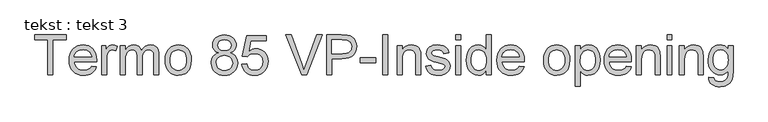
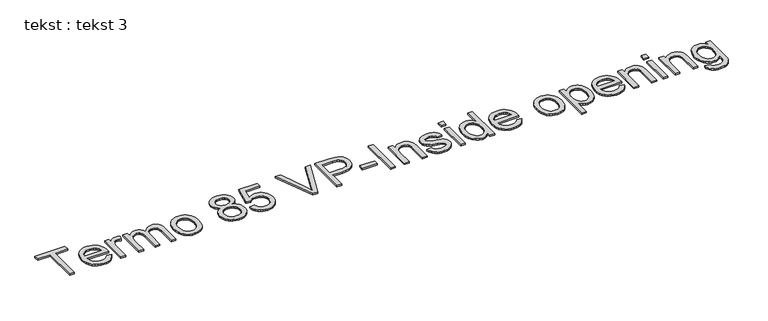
"""IFC4 building model written with IfcOpenShell, lengths in millimetres: proxy geometry, tekst : tekst 3."""

from ifc_helpers import new_model, si_unit, origin, origin_with_axes, place, context, project, spatial, polyline, outline, extrude, source, transform, mapped, element, save


def tekst_tekst_3_45cd4cb1(model_context):
    return source(origin(), model_context, "Body", "SweptSolid", [
        extrude(outline(polyline([(-1216.6523051, 3.0111201), (-1216.6523051, 442.507477), (-1381.4634389, 442.507477), (-1381.4634389, 505.2926709), (-989.0559774, 505.2926709), (-989.0559774, 442.507477), (-1153.8671112, 442.507477), (-1153.8671112, 3.0111201), (-1216.6523051, 3.0111201)])), origin_with_axes(), (0.0, 0.0, 1.0), 20.0),
        extrude(outline(polyline([(-668.0176229, 112.8852093), (-606.4587024, 105.0370601), (-615.8971749, 80.3813022), (-628.638921, 58.6532719), (-644.683941, 39.8529691), (-664.0322347, 23.9803938), (-686.4845327, 11.3727713), (-711.8415656, 2.3673266), (-740.1033335, -3.0359402), (-771.2698363, -4.8370291), (-810.2270067, -1.7291927), (-844.9382058, 7.5943166), (-875.4034335, 23.1334988), (-901.6226899, 44.8883539), (-922.7069267, 72.2534094), (-937.7670959, 104.6231929), (-946.8031974, 141.9977043), (-949.8152312, 184.3769437), (-946.7725406, 228.1932222), (-937.6444686, 266.8131675), (-922.4310152, 300.2367796), (-901.1321805, 328.4640585), (-874.9819021, 350.8895318), (-845.2141173, 366.907727), (-811.8288262, 376.5186441), (-774.8260289, 379.7222832), (-739.0150159, 376.5263084), (-706.629904, 366.9383839), (-677.6706932, 350.9585097), (-652.1373835, 328.5866859), (-631.2945692, 300.4207206), (-616.4068447, 267.0584222), (-607.47421, 228.4997905), (-604.4966651, 184.7448257), (-604.8645471, 167.822254), (-887.0300374, 167.822254), (-883.3933706, 142.7679572), (-876.1621901, 120.8253291), (-865.336496, 101.9943695), (-850.9162882, 86.2750784), (-833.6986444, 73.8820537), (-814.4806423, 65.0298931), (-793.2622818, 59.7185968), (-770.0435629, 57.9481647), (-736.627615, 61.2284459), (-708.4846424, 71.0692892), (-685.614645, 88.0838315), (-668.0176229, 112.8852093)]), holes=[polyline([(-887.0300374, 230.6074478), (-667.2818589, 230.6074478), (-675.7738017, 263.778141), (-692.420462, 287.5065297), (-709.5423031, 300.3823996), (-729.0247205, 309.5794494), (-750.8677139, 315.0976794), (-775.0712835, 316.9370893), (-817.3930414, 311.0663058), (-835.8063017, 303.7278265), (-852.3878162, 293.4539553), (-866.3021862, 280.7198733), (-876.7140131, 266.0007614), (-883.6232968, 249.2966196), (-887.0300374, 230.6074478)])]), origin_with_axes(), (0.0, 0.0, 1.0), 20.0),
        extrude(outline(polyline([(-541.7114713, 3.0111201), (-541.7114713, 371.874134), (-486.7744266, 371.874134), (-486.7744266, 317.3049713), (-466.4796032, 348.9428229), (-447.7789352, 367.5821773), (-429.0169534, 376.6872567), (-408.538189, 379.7222832), (-377.2682194, 374.8785036), (-345.5077405, 360.3471648), (-366.4770142, 304.0612195), (-388.5499339, 313.7181219), (-410.6228536, 316.9370893), (-429.369507, 313.8407492), (-446.1234662, 304.5517288), (-459.6584579, 289.7751354), (-468.7482089, 270.216076), (-476.3817603, 235.1446591), (-478.9262774, 196.8849316), (-478.9262774, 3.0111201), (-541.7114713, 3.0111201)])), origin_with_axes(), (0.0, 0.0, 1.0), 20.0),
        extrude(outline(polyline([(-306.2669943, 3.0111201), (-306.2669943, 371.874134), (-243.4818005, 371.874134), (-243.4818005, 311.1736048), (-224.5971914, 339.0559943), (-200.3169797, 360.8989878), (-171.4688999, 375.0164593), (-138.8806865, 379.7222832), (-103.9625538, 374.9244888), (-75.9728654, 360.5311058), (-55.0649053, 337.4924958), (-41.3919578, 306.7590208), (-18.506632, 338.6804481), (7.5976612, 361.4814676), (36.9209219, 375.1620793), (69.4631501, 379.7222832), (94.597921, 377.8253916), (116.6593444, 372.134717), (135.6474203, 362.6502593), (151.5621486, 349.3720186), (164.1429465, 332.1467106), (173.1292306, 310.8210512), (178.5210011, 285.3950404), (180.3182579, 255.8686781), (180.3182579, 3.0111201), (117.5330641, 3.0111201), (117.5330641, 228.8906652), (116.0768645, 260.20662), (111.7082658, 281.3138495), (103.5228914, 295.7685462), (90.6163648, 307.1269028), (74.0156897, 314.4845427), (54.7478703, 316.9370893), (36.9554108, 315.3659267), (20.7341141, 310.6524386), (6.0839801, 302.7966252), (-6.9949913, 291.7984863), (-17.7517075, 277.3361254), (-25.4350763, 259.0876456), (-30.0450975, 237.0530469), (-31.5817713, 211.2323294), (-31.5817713, 3.0111201), (-94.3669651, 3.0111201), (-94.3669651, 235.8804231), (-97.9997998, 271.3810356), (-108.8983039, 296.7035796), (-117.3251009, 305.5557401), (-128.0741529, 311.8787119), (-156.5390223, 316.9370893), (-180.7272635, 313.5648377), (-203.014781, 303.4480829), (-221.4088808, 286.8320794), (-233.9168686, 263.962082), (-241.0905675, 232.23226), (-243.4818005, 189.0367824), (-243.4818005, 3.0111201), (-306.2669943, 3.0111201)])), origin_with_axes(), (0.0, 0.0, 1.0), 20.0),
        extrude(outline(polyline([(258.7997502, 187.442627), (262.1949945, 235.213637), (272.3807272, 276.3780994), (289.3569485, 310.9360143), (313.1236582, 338.8873817), (337.0513163, 356.7526511), (363.4621779, 369.5135578), (392.3562429, 377.1701018), (423.7335114, 379.7222832), (458.3719005, 376.6144467), (489.6916875, 367.2909374), (517.6928722, 351.7517552), (542.3754549, 329.9969002), (562.5208262, 302.7621362), (576.9103772, 270.7832274), (585.5441077, 234.0601736), (588.4220179, 192.592975), (583.3329837, 129.1639876), (576.9716908, 103.1286723), (568.0658809, 80.8794758), (556.7266848, 61.6614736), (543.0652336, 44.7197413), (527.0815273, 30.0542789), (508.775566, 17.6650863), (468.0479634, 0.7884997), (423.7335114, -4.8370291), (388.5892846, -1.740689), (356.9782577, 7.5483314), (328.9004308, 23.030032), (304.355804, 44.7044129), (284.4250305, 72.203592), (270.1887637, 105.1596875), (261.6470036, 143.5726991), (258.7997502, 187.442627)]), holes=[polyline([(321.5849441, 187.5652544), (323.4013614, 157.111523), (328.8506135, 130.7428145), (337.9327002, 108.4591291), (350.6476217, 90.2604666), (366.1139939, 76.1238346), (383.4504329, 66.0262402), (402.6569388, 59.9676836), (423.7335114, 57.9481647), (444.7027851, 59.9791799), (463.8326489, 66.0722255), (481.1231027, 76.2273014), (496.5741465, 90.4444076), (509.2890679, 108.823179), (518.3711547, 131.4632501), (523.8204067, 158.364621), (525.6368241, 189.5272917), (523.8089104, 219.0153329), (518.3251694, 244.6942625), (509.1856011, 266.5640807), (496.3902055, 284.6247874), (480.8816801, 298.7614195), (463.6027226, 308.8590139), (444.5533331, 314.9175705), (423.7335114, 316.9370893), (402.6569388, 314.9252347), (383.4504329, 308.8896707), (366.1139939, 298.8303974), (350.6476217, 284.7474148), (337.9327002, 266.6024018), (328.8506135, 244.3570374), (323.4013614, 218.0113216), (321.5849441, 187.5652544)])]), origin_with_axes(), (0.0, 0.0, 1.0), 20.0),
        extrude(outline(polyline([(931.0427828, 279.6583805), (897.4275655, 296.2130703), (873.8371325, 318.653872), (859.9036019, 346.5209331), (855.2590918, 379.3544012), (857.7882805, 404.9605209), (865.3758466, 428.4359907), (878.0217902, 449.7808106), (895.7261112, 468.9949807), (917.6380826, 484.8752201), (942.9069771, 496.2182483), (971.5327949, 503.0240652), (1003.5155358, 505.2926709), (1035.6515609, 502.9704158), (1064.4919765, 496.0036505), (1090.0367826, 484.392375), (1112.2859791, 468.1365894), (1130.3121968, 448.5468731), (1143.1880666, 426.9338059), (1150.9135885, 403.2973877), (1153.4887625, 377.6376185), (1148.905566, 345.8618112), (1135.1559764, 318.469931), (1112.0867096, 296.167085), (1079.5444815, 279.6583805), (1100.1803621, 270.87903), (1118.1874194, 259.7467675), (1133.5656532, 246.2615931), (1146.3150636, 230.4235068), (1156.3206875, 212.5850621), (1163.4675616, 193.0988127), (1169.185061, 149.1828995), (1166.3493039, 117.8669447), (1157.8420328, 89.1568207), (1143.6632476, 63.0525274), (1123.8129482, 39.554065), (1099.3334671, 20.1329613), (1071.2671366, 6.2607444), (1039.6139566, -2.0625857), (1004.3739271, -4.8370291), (969.1338977, -2.0510894), (937.4807177, 6.3067297), (909.4143871, 20.2364281), (884.934906, 39.738006), (865.0846067, 63.4012489), (850.9058215, 89.8159426), (842.3985503, 118.982087), (839.5627933, 150.8996822), (841.0496497, 174.7200414), (845.5102189, 196.5170496), (852.9445009, 216.2907068), (863.3524957, 234.0410131), (876.504277, 249.4460716), (892.1699186, 262.1839857), (910.3494205, 272.2547553), (931.0427828, 279.6583805)]), holes=[polyline([(918.0442856, 377.5149912), (923.6085008, 350.1077826), (940.3011463, 328.2188039), (952.6980031, 319.8494885), (967.6317129, 313.871406), (1005.1096911, 309.0889401), (1041.7139496, 313.8407492), (1056.3832442, 319.7805106), (1068.630649, 328.0961765), (1085.1853387, 349.2493913), (1090.7035687, 374.6945626), (1085.0013977, 401.1054242), (1067.894885, 422.9484176), (1055.3715687, 431.5055061), (1040.6103037, 437.6177122), (1004.3739271, 442.507477), (967.9076244, 437.7250111), (953.134863, 431.7469287), (940.6690283, 423.3776133), (923.7004713, 402.3470259), (918.0442856, 377.5149912)]), polyline([(902.3479871, 153.1069742), (904.9691464, 129.0873456), (912.832624, 105.8341378), (927.3486344, 85.5546428), (949.9273918, 70.4561526), (976.9667185, 61.0751617), (1004.8644365, 57.9481647), (1027.5658212, 59.5921374), (1047.6000616, 64.5240554), (1064.9671574, 72.7439187), (1079.6671088, 84.2517274), (1091.3626906, 98.296389), (1099.7166776, 114.1268111), (1104.7290697, 131.7429937), (1106.3998671, 151.1449368), (1104.6754203, 170.8572804), (1099.5020797, 188.7915277), (1090.8798455, 204.9476786), (1078.8087175, 219.3257333), (1063.7102273, 231.128614), (1046.0059063, 239.559243), (1025.6957544, 244.6176205), (1002.7797718, 246.3037463), (980.4117801, 244.6406131), (960.641955, 239.6512135), (943.4702964, 231.3355476), (928.8968045, 219.6936153), (917.2816969, 205.5531511), (908.9851915, 189.7418895), (904.0072882, 172.2598305), (902.3479871, 153.1069742)])]), origin_with_axes(), (0.0, 0.0, 1.0), 20.0),
        extrude(outline(polyline([(1224.1221056, 136.429657), (1286.9072994, 144.2778063), (1298.4342686, 106.5852302), (1307.4167207, 91.7511551), (1318.545151, 79.5918888), (1331.7965671, 70.1227595), (1347.1479761, 63.3590957), (1384.1507735, 57.9481647), (1408.0631032, 59.8297279), (1429.1550042, 65.4744172), (1447.4264767, 74.8822328), (1462.8775205, 88.0531747), (1475.1632463, 104.3357851), (1483.9387647, 123.0786063), (1489.2040757, 144.2816384), (1490.9591794, 167.9448813), (1489.3152068, 190.3090409), (1484.3832888, 210.1899971), (1476.1634254, 227.5877498), (1464.6556168, 242.502299), (1449.8215417, 254.466128), (1431.6228793, 263.0117202), (1410.0596294, 268.1390755), (1385.1317921, 269.848194), (1354.6742286, 267.1197358), (1330.0108065, 258.9343614), (1310.3137914, 246.3957168), (1294.7554487, 230.6074478), (1231.9702548, 238.455597), (1286.9072994, 497.4445216), (1530.1999256, 497.4445216), (1530.1999256, 434.6593278), (1337.6750148, 434.6593278), (1310.8196291, 296.3356976), (1332.9768551, 312.2159371), (1355.6705757, 323.5589653), (1378.9007908, 330.3647822), (1402.6675006, 332.6333878), (1433.2438593, 329.8206234), (1461.3293504, 321.3823301), (1486.9239738, 307.318508), (1510.0277295, 287.6291571), (1529.1537612, 263.517558), (1542.8152123, 236.1869914), (1551.012083, 205.6374574), (1553.7443733, 171.8689559), (1551.2841624, 139.3420562), (1543.9035299, 109.0837621), (1531.6024757, 81.0940736), (1514.3809998, 55.3729908), (1488.292035, 29.0311071), (1457.8497999, 10.2154759), (1423.0542945, -1.0739029), (1383.9055188, -4.8370291), (1351.5050785, -2.4189714), (1322.2392994, 4.8352017), (1296.1081814, 16.9254902), (1273.1117246, 33.8518941), (1253.9780288, 54.7713504), (1239.4351936, 78.8407964), (1229.4832192, 106.0602319), (1224.1221056, 136.429657)])), origin_with_axes(), (0.0, 0.0, 1.0), 20.0),
        extrude(outline(polyline([(1976.8086677, 3.0111201), (1776.926117, 505.2926709), (1844.1258948, 505.2926709), (1977.9123137, 143.4194149), (2005.012954, 61.8722394), (2031.7457123, 143.4194149), (2165.9000132, 505.2926709), (2233.099791, 505.2926709), (2041.6785262, 3.0111201), (1976.8086677, 3.0111201)])), origin_with_axes(), (0.0, 0.0, 1.0), 20.0),
        extrude(outline(polyline([(2291.4704009, 3.0111201), (2291.4704009, 505.2926709), (2477.6186905, 505.2926709), (2552.6666175, 500.5102049), (2586.1285506, 491.5737381), (2613.673715, 477.0270709), (2635.8539337, 456.2110813), (2653.2210295, 428.4666475), (2664.4414304, 395.7404784), (2668.181564, 359.9792828), (2665.6562074, 329.1461731), (2658.0801375, 300.7809384), (2645.4533545, 274.8835788), (2627.7758582, 251.4540942), (2603.5071428, 232.0329905), (2571.1067025, 218.1607736), (2530.5745373, 209.8374435), (2481.9106471, 207.0630001), (2354.2555948, 207.0630001), (2354.2555948, 3.0111201), (2291.4704009, 3.0111201)]), holes=[polyline([(2354.2555948, 269.848194), (2485.589467, 269.848194), (2515.7864475, 271.2890651), (2541.2622757, 275.6116785), (2562.0169515, 282.8160343), (2578.0504752, 292.9021323), (2590.0143042, 305.6017254), (2598.5598964, 320.6465661), (2603.6872517, 338.0366546), (2605.3963701, 357.7719908), (2601.3649966, 385.9762771), (2589.270876, 409.7659795), (2570.6161932, 427.6695699), (2546.9031329, 438.2155204), (2484.1179391, 442.507477), (2354.2555948, 442.507477), (2354.2555948, 269.848194)])]), origin_with_axes(), (0.0, 0.0, 1.0), 20.0),
        extrude(outline(polyline([(2715.2704594, 152.1259555), (2715.2704594, 214.9111493), (2911.4741901, 214.9111493), (2911.4741901, 152.1259555), (2715.2704594, 152.1259555)])), origin_with_axes(), (0.0, 0.0, 1.0), 20.0),
        extrude(outline(polyline([(2997.8038317, 3.0111201), (2997.8038317, 505.2926709), (3060.5890255, 505.2926709), (3060.5890255, 3.0111201), (2997.8038317, 3.0111201)])), origin_with_axes(), (0.0, 0.0, 1.0), 20.0),
        extrude(outline(polyline([(3178.311264, 3.0111201), (3178.311264, 371.874134), (3241.0964578, 371.874134), (3241.0964578, 320.3706546), (3262.9087944, 346.3369921), (3289.1050582, 364.884376), (3319.685249, 376.0128064), (3354.649367, 379.7222832), (3385.5974398, 376.733242), (3413.9396819, 367.7661183), (3437.5761001, 353.9398867), (3454.4067013, 336.3735214), (3465.8263716, 315.1130078), (3473.2299968, 290.204331), (3476.5409347, 229.5038018), (3476.5409347, 3.0111201), (3413.7557409, 3.0111201), (3413.7557409, 221.0425159), (3411.9469877, 253.508102), (3406.5207283, 276.5926972), (3396.5112724, 293.1320586), (3380.9529296, 305.9619432), (3361.0106598, 314.1933028), (3337.8494225, 316.9370893), (3318.7847046, 315.3965835), (3301.0765514, 310.7750659), (3284.7249632, 303.0725366), (3269.7299398, 292.2889957), (3257.2027914, 277.1981697), (3248.2548283, 256.5737853), (3242.8860504, 230.4158426), (3241.0964578, 198.7243416), (3241.0964578, 3.0111201), (3178.311264, 3.0111201)])), origin_with_axes(), (0.0, 0.0, 1.0), 20.0),
        extrude(outline(polyline([(3539.3261286, 112.8852093), (3602.1113224, 120.7333586), (3612.0134794, 93.8779729), (3631.174, 74.1349725), (3659.7155115, 61.9948667), (3697.7606412, 57.9481647), (3735.3459183, 61.6576415), (3761.7721083, 72.7860719), (3777.4070931, 88.911566), (3782.6187547, 107.6122341), (3777.3764363, 123.6151009), (3761.649481, 135.8165204), (3697.0248772, 153.7201108), (3639.7272564, 170.290129), (3602.4792044, 184.4382574), (3578.5515463, 199.8739728), (3561.2151073, 220.3067519), (3550.6844852, 244.4336795), (3547.1742778, 270.9518399), (3549.9947064, 295.2780369), (3558.4559923, 317.734167), (3571.7917146, 337.4311822), (3589.2354526, 353.4800342), (3606.5718916, 363.5814606), (3629.1506491, 372.058075), (3655.2549423, 377.8062311), (3683.1679887, 379.7222832), (3724.033547, 376.6412715), (3759.5648163, 367.3982363), (3788.1369846, 352.8975544), (3808.1252397, 334.0436021), (3821.3689915, 309.4414937), (3829.7076501, 277.6963432), (3766.9224562, 269.848194), (3758.9976649, 289.6065228), (3743.3166949, 304.4904152), (3719.726262, 313.8254208), (3688.0730819, 316.9370893), (3652.0206464, 313.9633765), (3627.9856894, 305.0422382), (3614.4660261, 292.1663683), (3609.9594716, 277.3284612), (3611.8295384, 267.6715588), (3617.4397389, 259.0569888), (3627.0353276, 251.3621237), (3640.8615592, 245.2001003), (3694.9402125, 231.8337211), (3787.0946523, 202.2805342), (3811.4361777, 188.1477342), (3829.8915911, 168.8032726), (3841.5258592, 144.1858358), (3845.4039486, 114.23411), (3840.8514089, 83.2707087), (3827.1937898, 54.1467175), (3804.9522575, 29.1460702), (3774.6479781, 10.552701), (3738.0437196, -0.9895966), (3696.9022498, -4.8370291), (3663.1107557, -2.9822907), (3633.5958898, 2.5819245), (3608.3576521, 11.8556164), (3587.3960426, 24.8387852), (3570.2742014, 41.470117), (3556.5552687, 61.6882984), (3546.2392444, 85.4933291), (3539.3261286, 112.8852093)])), origin_with_axes(), (0.0, 0.0, 1.0), 20.0),
        extrude(outline(polyline([(3916.0372916, 3.0111201), (3916.0372916, 371.874134), (3978.8224855, 371.874134), (3978.8224855, 3.0111201), (3916.0372916, 3.0111201)])), origin_with_axes(), (0.0, 0.0, 1.0), 20.0),
        extrude(outline(polyline([(3916.0372916, 442.507477), (3916.0372916, 505.2926709), (3978.8224855, 505.2926709), (3978.8224855, 442.507477), (3916.0372916, 442.507477)])), origin_with_axes(), (0.0, 0.0, 1.0), 20.0),
        extrude(outline(polyline([(4300.5966039, 3.0111201), (4300.5966039, 62.2401213), (4281.8116295, 32.893868), (4259.0565953, 11.9322585), (4232.3315012, -0.6447072), (4201.6363472, -4.8370291), (4161.0467004, 1.2330238), (4123.8906189, 19.4431826), (4092.4367083, 48.5211886), (4068.9535743, 87.1947834), (4054.330265, 133.9004683), (4049.4558285, 187.074745), (4053.9470546, 239.5898999), (4067.4207326, 287.0160204), (4077.5221591, 308.1462425), (4089.8615343, 326.6553054), (4104.4388584, 342.543209), (4121.2541313, 355.8099535), (4159.2226189, 373.7442008), (4201.3910926, 379.7222832), (4232.1092391, 375.445655), (4259.2711931, 362.6157704), (4282.2944747, 342.9494121), (4300.5966039, 318.1633627), (4300.5966039, 505.2926709), (4363.3817978, 505.2926709), (4363.3817978, 3.0111201), (4300.5966039, 3.0111201)]), holes=[polyline([(4112.2410224, 187.3199997), (4114.0114545, 156.8739325), (4119.3227508, 130.5282167), (4128.1749113, 108.2828523), (4140.567936, 90.1378393), (4155.3675221, 76.0548567), (4171.4393668, 65.9955834), (4188.78347, 59.9600194), (4207.3998318, 57.9481647), (4226.104332, 59.8680489), (4243.3449684, 65.6277014), (4259.1217411, 75.2271222), (4273.4346499, 88.6663113), (4285.3180048, 106.0525677), (4293.8061154, 127.4931902), (4298.8989818, 152.9881789), (4300.5966039, 182.5375338), (4298.868325, 214.934142), (4293.6834881, 242.7168968), (4285.0420933, 265.8857983), (4272.9441406, 284.4408464), (4258.3169992, 298.6579527), (4242.0880383, 308.8130286), (4224.2572578, 314.9060742), (4204.8246578, 316.9370893), (4185.840414, 314.9865483), (4168.4963108, 309.1349254), (4152.7923481, 299.3822204), (4138.728526, 285.7284334), (4127.1402432, 267.8746603), (4118.8628983, 245.521997), (4113.8964914, 218.6704435), (4112.2410224, 187.3199997)])]), origin_with_axes(), (0.0, 0.0, 1.0), 20.0),
        extrude(outline(polyline([(4715.8127491, 112.8852093), (4777.3716697, 105.0370601), (4767.9331972, 80.3813022), (4755.191451, 58.6532719), (4739.1464311, 39.8529691), (4719.7981374, 23.9803938), (4697.3458394, 11.3727713), (4671.9888065, 2.3673266), (4643.7270386, -3.0359402), (4612.5605358, -4.8370291), (4573.6033654, -1.7291927), (4538.8921663, 7.5943166), (4508.4269386, 23.1334988), (4482.2076822, 44.8883539), (4461.1234454, 72.2534094), (4446.0632762, 104.6231929), (4437.0271747, 141.9977043), (4434.0151408, 184.3769437), (4437.0578315, 228.1932222), (4446.1859035, 266.8131675), (4461.3993569, 300.2367796), (4482.6981915, 328.4640585), (4508.84847, 350.8895318), (4538.6162548, 366.907727), (4572.0015459, 376.5186441), (4609.0043432, 379.7222832), (4644.8153562, 376.5263084), (4677.2004681, 366.9383839), (4706.1596789, 350.9585097), (4731.6929886, 328.5866859), (4752.5358029, 300.4207206), (4767.4235274, 267.0584222), (4776.3561621, 228.4997905), (4779.333707, 184.7448257), (4778.965825, 167.822254), (4496.8003347, 167.822254), (4500.4370015, 142.7679572), (4507.668182, 120.8253291), (4518.4938761, 101.9943695), (4532.9140839, 86.2750784), (4550.1317277, 73.8820537), (4569.3497298, 65.0298931), (4590.5680903, 59.7185968), (4613.7868091, 57.9481647), (4647.202757, 61.2284459), (4675.3457297, 71.0692892), (4698.215727, 88.0838315), (4715.8127491, 112.8852093)]), holes=[polyline([(4496.8003347, 230.6074478), (4716.5485131, 230.6074478), (4708.0565704, 263.778141), (4691.4099101, 287.5065297), (4674.2880689, 300.3823996), (4654.8056516, 309.5794494), (4632.9626581, 315.0976794), (4608.7590885, 316.9370893), (4566.4373307, 311.0663058), (4548.0240704, 303.7278265), (4531.4425559, 293.4539553), (4517.5281858, 280.7198733), (4507.116359, 266.0007614), (4500.2070752, 249.2966196), (4496.8003347, 230.6074478)])]), origin_with_axes(), (0.0, 0.0, 1.0), 20.0),
        extrude(outline(polyline([(5022.6263331, 187.442627), (5026.0215774, 235.213637), (5036.2073101, 276.3780994), (5053.1835313, 310.9360143), (5076.9502411, 338.8873817), (5100.8778992, 356.7526511), (5127.2887607, 369.5135578), (5156.1828258, 377.1701018), (5187.5600943, 379.7222832), (5222.1984834, 376.6144467), (5253.5182703, 367.2909374), (5281.5194551, 351.7517552), (5306.2020377, 329.9969002), (5326.3474091, 302.7621362), (5340.73696, 270.7832274), (5349.3706906, 234.0601736), (5352.2486008, 192.592975), (5347.1595665, 129.1639876), (5340.7982737, 103.1286723), (5331.8924637, 80.8794758), (5320.5532677, 61.6614736), (5306.8918165, 44.7197413), (5290.9081102, 30.0542789), (5272.6021488, 17.6650863), (5231.8745463, 0.7884997), (5187.5600943, -4.8370291), (5152.4158674, -1.740689), (5120.8048406, 7.5483314), (5092.7270137, 23.030032), (5068.1823869, 44.7044129), (5048.2516133, 72.203592), (5034.0153466, 105.1596875), (5025.4735865, 143.5726991), (5022.6263331, 187.442627)]), holes=[polyline([(5085.411527, 187.5652544), (5087.2279443, 157.111523), (5092.6771964, 130.7428145), (5101.7592831, 108.4591291), (5114.4742046, 90.2604666), (5129.9405768, 76.1238346), (5147.2770158, 66.0262402), (5166.4835216, 59.9676836), (5187.5600943, 57.9481647), (5208.529368, 59.9791799), (5227.6592318, 66.0722255), (5244.9496855, 76.2273014), (5260.4007293, 90.4444076), (5273.1156508, 108.823179), (5282.1977375, 131.4632501), (5287.6469896, 158.364621), (5289.463407, 189.5272917), (5287.6354933, 219.0153329), (5282.1517523, 244.6942625), (5273.012184, 266.5640807), (5260.2167883, 284.6247874), (5244.708263, 298.7614195), (5227.4293055, 308.8590139), (5208.379916, 314.9175705), (5187.5600943, 316.9370893), (5166.4835216, 314.9252347), (5147.2770158, 308.8896707), (5129.9405768, 298.8303974), (5114.4742046, 284.7474148), (5101.7592831, 266.6024018), (5092.6771964, 244.3570374), (5087.2279443, 218.0113216), (5085.411527, 187.5652544)])]), origin_with_axes(), (0.0, 0.0, 1.0), 20.0),
        extrude(outline(polyline([(5422.8819439, -138.255566), (5422.8819439, 371.874134), (5485.6671377, 371.874134), (5485.6671377, 310.3152134), (5506.1459021, 340.6808064), (5529.0772131, 362.3705157), (5555.8099715, 375.3843413), (5587.6930777, 379.7222832), (5609.5897206, 378.20477), (5630.1527913, 373.6522303), (5649.3822898, 366.0646641), (5667.278216, 355.4420715), (5683.4496954, 342.0603639), (5697.5058533, 326.1954529), (5719.2722047, 287.0160204), (5732.423986, 240.7548595), (5736.8079131, 190.2630557), (5731.8568346, 136.5676128), (5717.003599, 88.543684), (5705.9824676, 67.2678419), (5692.7233873, 48.6284875), (5677.2263583, 32.6256207), (5659.4913804, 19.2592416), (5620.7871289, 1.1870386), (5580.0901831, -4.8370291), (5551.2267749, -0.8056556), (5525.4597069, 11.288465), (5503.4021156, 29.544609), (5485.6671377, 52.0620528), (5485.6671377, -138.255566), (5422.8819439, -138.255566)]), holes=[polyline([(5485.6671377, 184.4995711), (5487.3647598, 154.241277), (5492.4576262, 128.2136258), (5500.9457368, 106.4166176), (5512.8290917, 88.8502523), (5527.1343364, 75.330589), (5542.8881164, 65.6736866), (5560.0904318, 59.8795452), (5578.7412825, 57.9481647), (5597.6603805, 59.9485231), (5615.1769284, 65.9495981), (5631.2909262, 75.9513899), (5646.0023739, 89.9538983), (5658.261275, 108.1563929), (5667.0176329, 130.7581429), (5672.2714477, 157.7591486), (5674.0227192, 189.1594097), (5672.3136008, 219.1571207), (5667.1862455, 245.1387866), (5658.6406533, 267.1044074), (5646.6768243, 285.0539831), (5632.3370907, 299.0028421), (5616.6637848, 308.9663128), (5599.6569068, 314.9443952), (5581.3164565, 316.9370893), (5563.0334877, 314.8179358), (5545.8311723, 308.460475), (5529.7095103, 297.8647072), (5514.6685017, 283.0306321), (5501.9804049, 264.1575193), (5492.9174787, 241.4446382), (5487.479723, 214.8919888), (5485.6671377, 184.4995711)])]), origin_with_axes(), (0.0, 0.0, 1.0), 20.0),
        extrude(outline(polyline([(6065.6944168, 112.8852093), (6127.2533373, 105.0370601), (6117.8148649, 80.3813022), (6105.0731187, 58.6532719), (6089.0280987, 39.8529691), (6069.6798051, 23.9803938), (6047.227507, 11.3727713), (6021.8704741, 2.3673266), (5993.6087062, -3.0359402), (5962.4422035, -4.8370291), (5923.485033, -1.7291927), (5888.7738339, 7.5943166), (5858.3086062, 23.1334988), (5832.0893498, 44.8883539), (5811.005113, 72.2534094), (5795.9449438, 104.6231929), (5786.9088423, 141.9977043), (5783.8968085, 184.3769437), (5786.9394991, 228.1932222), (5796.0675711, 266.8131675), (5811.2810245, 300.2367796), (5832.5798592, 328.4640585), (5858.7301377, 350.8895318), (5888.4979224, 366.907727), (5921.8832135, 376.5186441), (5958.8860108, 379.7222832), (5994.6970238, 376.5263084), (6027.0821357, 366.9383839), (6056.0413465, 350.9585097), (6081.5746562, 328.5866859), (6102.4174705, 300.4207206), (6117.305195, 267.0584222), (6126.2378297, 228.4997905), (6129.2153746, 184.7448257), (6128.8474926, 167.822254), (5846.6820023, 167.822254), (5850.3186691, 142.7679572), (5857.5498496, 120.8253291), (5868.3755437, 101.9943695), (5882.7957515, 86.2750784), (5900.0133953, 73.8820537), (5919.2313974, 65.0298931), (5940.4497579, 59.7185968), (5963.6684768, 57.9481647), (5997.0844247, 61.2284459), (6025.2273973, 71.0692892), (6048.0973947, 88.0838315), (6065.6944168, 112.8852093)]), holes=[polyline([(5846.6820023, 230.6074478), (6066.4301808, 230.6074478), (6057.938238, 263.778141), (6041.2915778, 287.5065297), (6024.1697366, 300.3823996), (6004.6873192, 309.5794494), (5982.8443258, 315.0976794), (5958.6407562, 316.9370893), (5916.3189983, 311.0663058), (5897.905738, 303.7278265), (5881.3242235, 293.4539553), (5867.4098535, 280.7198733), (5856.9980266, 266.0007614), (5850.0887429, 249.2966196), (5846.6820023, 230.6074478)])]), origin_with_axes(), (0.0, 0.0, 1.0), 20.0),
        extrude(outline(polyline([(6192.0005685, 3.0111201), (6192.0005685, 371.874134), (6254.7857623, 371.874134), (6254.7857623, 320.3706546), (6276.5980989, 346.3369921), (6302.7943627, 364.884376), (6333.3745535, 376.0128064), (6368.3386715, 379.7222832), (6399.2867443, 376.733242), (6427.6289864, 367.7661183), (6451.2654046, 353.9398867), (6468.0960058, 336.3735214), (6479.5156761, 315.1130078), (6486.9193013, 290.204331), (6490.2302392, 229.5038018), (6490.2302392, 3.0111201), (6427.4450454, 3.0111201), (6427.4450454, 221.0425159), (6425.6362922, 253.508102), (6420.2100328, 276.5926972), (6410.2005768, 293.1320586), (6394.6422341, 305.9619432), (6374.6999643, 314.1933028), (6351.538727, 316.9370893), (6332.4740091, 315.3965835), (6314.7658559, 310.7750659), (6298.4142677, 303.0725366), (6283.4192443, 292.2889957), (6270.8920959, 277.1981697), (6261.9441328, 256.5737853), (6256.5753549, 230.4158426), (6254.7857623, 198.7243416), (6254.7857623, 3.0111201), (6192.0005685, 3.0111201)])), origin_with_axes(), (0.0, 0.0, 1.0), 20.0),
        extrude(outline(polyline([(6576.5598807, 3.0111201), (6576.5598807, 371.874134), (6639.3450746, 371.874134), (6639.3450746, 3.0111201), (6576.5598807, 3.0111201)])), origin_with_axes(), (0.0, 0.0, 1.0), 20.0),
        extrude(outline(polyline([(6576.5598807, 442.507477), (6576.5598807, 505.2926709), (6639.3450746, 505.2926709), (6639.3450746, 442.507477), (6576.5598807, 442.507477)])), origin_with_axes(), (0.0, 0.0, 1.0), 20.0),
        extrude(outline(polyline([(6733.5228654, 3.0111201), (6733.5228654, 371.874134), (6796.3080592, 371.874134), (6796.3080592, 320.3706546), (6818.1203958, 346.3369921), (6844.3166596, 364.884376), (6874.8968504, 376.0128064), (6909.8609684, 379.7222832), (6940.8090412, 376.733242), (6969.1512833, 367.7661183), (6992.7877015, 353.9398867), (7009.6183027, 336.3735214), (7021.037973, 315.1130078), (7028.4415982, 290.204331), (7031.7525361, 229.5038018), (7031.7525361, 3.0111201), (6968.9673423, 3.0111201), (6968.9673423, 221.0425159), (6967.1585891, 253.508102), (6961.7323297, 276.5926972), (6951.7228737, 293.1320586), (6936.164531, 305.9619432), (6916.2222612, 314.1933028), (6893.0610239, 316.9370893), (6873.996306, 315.3965835), (6856.2881528, 310.7750659), (6839.9365646, 303.0725366), (6824.9415412, 292.2889957), (6812.4143928, 277.1981697), (6803.4664297, 256.5737853), (6798.0976518, 230.4158426), (6796.3080592, 198.7243416), (6796.3080592, 3.0111201), (6733.5228654, 3.0111201)])), origin_with_axes(), (0.0, 0.0, 1.0), 20.0),
        extrude(outline(polyline([(7102.3858792, -28.3814768), (7165.171073, -36.229626), (7172.0995173, -55.8499991), (7185.5272101, -69.3390056), (7211.9227432, -79.8236425), (7246.472994, -83.3185214), (7283.3225071, -79.36379), (7310.7297158, -67.4995956), (7329.7369522, -48.4923592), (7341.3865487, -23.1085015), (7344.7894572, 3.9001683), (7345.6785053, 50.1000155), (7324.7858737, 29.4986238), (7301.4713522, 14.783344), (7275.734941, 5.9541761), (7247.5766399, 3.0111201), (7213.1528487, 6.4370212), (7182.8447372, 16.7147244), (7156.6523056, 33.8442298), (7134.5755538, 57.8255374), (7117.0590058, 86.5969751), (7104.5471859, 118.0968709), (7097.0400939, 152.3252249), (7094.53773, 189.282037), (7099.028956, 239.9731103), (7112.5026341, 286.5868247), (7134.4835833, 326.088154), (7148.4860917, 342.0335392), (7164.4966227, 355.4420715), (7182.2584253, 366.0646641), (7201.5147485, 373.6522303), (7222.2655923, 378.20477), (7244.5109567, 379.7222832), (7273.8725384, 376.2887179), (7300.5209904, 365.988022), (7324.4563127, 348.8201956), (7345.6785053, 324.7852386), (7345.6785053, 371.874134), (7408.4636992, 371.874134), (7408.4636992, 53.4109535), (7404.1717426, -20.1194603), (7398.8067968, -47.4691874), (7391.2958727, -68.5419279), (7369.1156541, -100.6549604), (7336.9106511, -125.2570689), (7317.2251323, -134.3774767), (7295.3859709, -140.8920537), (7245.2467206, -146.1037153), (7214.4864209, -144.2681374), (7186.8301255, -138.7614038), (7162.2778344, -129.5835144), (7140.8295477, -116.7344693), (7123.504605, -100.19894), (7111.322346, -79.9615982), (7104.2827707, -56.0224438), (7102.3858792, -28.3814768)]), holes=[polyline([(7157.3229238, 193.5739936), (7158.9975533, 162.5301182), (7164.0214418, 135.985133), (7172.3945893, 113.939038), (7184.1169958, 96.3918332), (7198.368591, 83.0062936), (7214.3293046, 73.4451938), (7231.9991367, 67.7085339), (7251.3780872, 65.796314), (7270.5654325, 67.6970376), (7288.1509583, 73.3992085), (7304.1346646, 82.9028267), (7318.5165514, 96.2078922), (7330.3999062, 113.5826523), (7338.8880168, 135.2953542), (7343.9808832, 161.345998), (7345.6785053, 191.7345836), (7343.9310659, 220.8547428), (7338.6887474, 246.1657905), (7329.95155, 267.6677267), (7317.7194737, 285.3605514), (7303.0271865, 299.1752868), (7286.9093566, 309.0429549), (7269.365984, 314.9635557), (7250.3970686, 316.9370893), (7231.7462178, 314.9942126), (7214.5439025, 309.1655822), (7198.7901224, 299.4511983), (7184.4848778, 285.8510607), (7172.6015229, 268.4264833), (7164.1134123, 247.2387797), (7159.0205459, 222.2879498), (7157.3229238, 193.5739936)])]), origin_with_axes(), (0.0, 0.0, 1.0), 20.0),
    ])


if __name__ == "__main__":
    model = new_model("IFC4")
    model_context = context("Model", 3, world=origin())
    ifc_project = project(units=[si_unit("LENGTHUNIT", "METRE", prefix="MILLI")], contexts=[model_context])
    site = spatial("IfcSite", under=ifc_project)
    building = spatial("IfcBuilding", under=site)
    placement = place(None, origin())
    tekst_tekst_3_shape = tekst_tekst_3_45cd4cb1(model_context)
    element("IfcBuildingElementProxy", 1, Name="tekst : tekst 3", ObjectType="tekst : tekst 3", at=placement, inside=building, context=model_context, shape_type="MappedRepresentation", body=[
        mapped(tekst_tekst_3_shape, transform((0.0, 0.0, 0.0), x_axis=(1.0, 0.0, 0.0), y_axis=(0.0, 1.0, 0.0), z_axis=(0.0, 0.0, 1.0))),
    ])
    save(model, "model.ifc")
